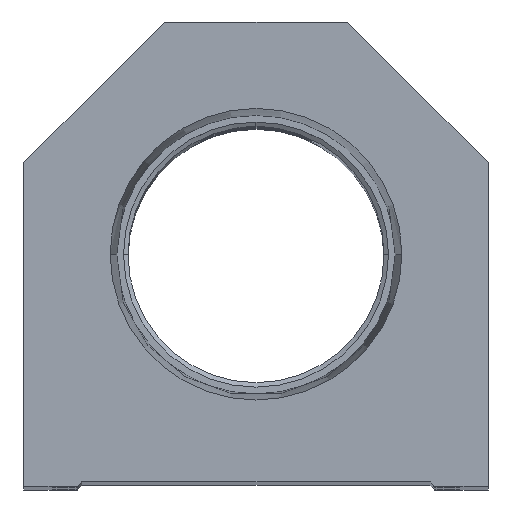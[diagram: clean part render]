
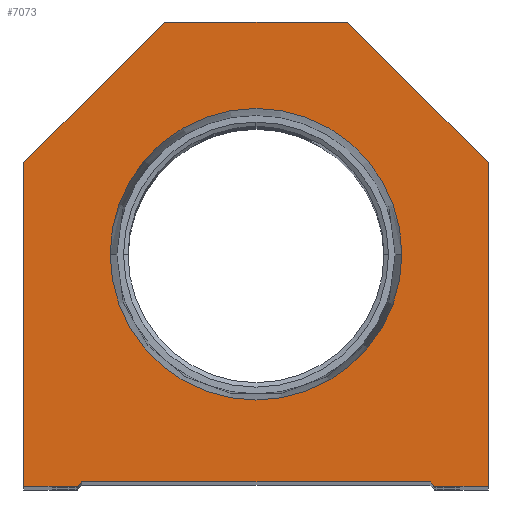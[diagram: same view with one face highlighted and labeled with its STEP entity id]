
A CAD part, top view. The second image highlights one B-rep face of the part: STEP entity #7073.
In plain terms, the highlighted planar face has unit normal (0, 0, 1).
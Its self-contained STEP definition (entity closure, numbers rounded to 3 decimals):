
#272 = DIRECTION ( 'NONE',  ( -1., 0., 0. ) ) ;
#381 = DIRECTION ( 'NONE',  ( 0.707, 0.707, 0. ) ) ;
#494 = DIRECTION ( 'NONE',  ( 0.707, -0.707, 0. ) ) ;
#551 = CARTESIAN_POINT ( 'NONE',  ( 19.05, 0., 0. ) ) ;
#645 = LINE ( 'NONE', #551, #13888 ) ;
#687 = CIRCLE ( 'NONE', #13352, 15.947 ) ;
#899 = VERTEX_POINT ( 'NONE', #9761 ) ;
#1022 = EDGE_CURVE ( 'NONE', #2037, #3148, #4108, .T. ) ;
#1048 = ORIENTED_EDGE ( 'NONE', *, *, #12472, .T. ) ;
#1087 = CARTESIAN_POINT ( 'NONE',  ( -25.4, 0., 0. ) ) ;
#1173 = VECTOR ( 'NONE', #494, 1000. ) ;
#1298 = ORIENTED_EDGE ( 'NONE', *, *, #9705, .T. ) ;
#1393 = CARTESIAN_POINT ( 'NONE',  ( -19.05, 0., 0. ) ) ;
#1475 = FACE_BOUND ( 'NONE', #8151, .T. ) ;
#1544 = DIRECTION ( 'NONE',  ( -0.707, 0.707, 0. ) ) ;
#1827 = CARTESIAN_POINT ( 'NONE',  ( 9.775, 9.775, 0. ) ) ;
#2037 = VERTEX_POINT ( 'NONE', #8344 ) ;
#2321 = CARTESIAN_POINT ( 'NONE',  ( 19.55, 0., 0. ) ) ;
#2626 = CARTESIAN_POINT ( 'NONE',  ( -19.05, 0.5, 0. ) ) ;
#2729 = EDGE_CURVE ( 'NONE', #6214, #3938, #7697, .T. ) ;
#2784 = CARTESIAN_POINT ( 'NONE',  ( 25.4, 35.4, 0. ) ) ;
#3148 = VERTEX_POINT ( 'NONE', #11606 ) ;
#3512 = EDGE_CURVE ( 'NONE', #899, #12322, #12867, .T. ) ;
#3933 = DIRECTION ( 'NONE',  ( 0., 0., 1. ) ) ;
#3938 = VERTEX_POINT ( 'NONE', #4778 ) ;
#4021 = EDGE_CURVE ( 'NONE', #6687, #7811, #687, .T. ) ;
#4060 = EDGE_CURVE ( 'NONE', #7811, #6687, #6038, .T. ) ;
#4108 = LINE ( 'NONE', #14190, #11794 ) ;
#4561 = VERTEX_POINT ( 'NONE', #9564 ) ;
#4679 = EDGE_LOOP ( 'NONE', ( #9966, #16146, #9012, #1048, #1298, #6498, #16130, #13596, #16250, #15469 ) ) ;
#4778 = CARTESIAN_POINT ( 'NONE',  ( 19.05, 0.5, 0. ) ) ;
#4903 = FACE_OUTER_BOUND ( 'NONE', #4679, .T. ) ;
#4905 = DIRECTION ( 'NONE',  ( 1., 0., 0. ) ) ;
#4959 = DIRECTION ( 'NONE',  ( 1., 0., 0. ) ) ;
#5077 = VERTEX_POINT ( 'NONE', #2321 ) ;
#5443 = CARTESIAN_POINT ( 'NONE',  ( -19.05, 0.5, 0. ) ) ;
#5668 = ORIENTED_EDGE ( 'NONE', *, *, #4060, .F. ) ;
#6038 = CIRCLE ( 'NONE', #16280, 15.947 ) ;
#6214 = VERTEX_POINT ( 'NONE', #5443 ) ;
#6398 = VERTEX_POINT ( 'NONE', #10011 ) ;
#6409 = DIRECTION ( 'NONE',  ( 1., 0., 0. ) ) ;
#6498 = ORIENTED_EDGE ( 'NONE', *, *, #7054, .T. ) ;
#6687 = VERTEX_POINT ( 'NONE', #6771 ) ;
#6739 = LINE ( 'NONE', #11919, #8133 ) ;
#6771 = CARTESIAN_POINT ( 'NONE',  ( -15.947, 25.4, 0. ) ) ;
#7054 = EDGE_CURVE ( 'NONE', #11685, #4561, #13022, .T. ) ;
#7059 = VECTOR ( 'NONE', #1544, 1000. ) ;
#7073 = ADVANCED_FACE ( 'NONE', ( #1475, #4903 ), #16629, .T. ) ;
#7611 = CARTESIAN_POINT ( 'NONE',  ( 25.4, 0., 0. ) ) ;
#7697 = LINE ( 'NONE', #2626, #11364 ) ;
#7811 = VERTEX_POINT ( 'NONE', #16206 ) ;
#7874 = CARTESIAN_POINT ( 'NONE',  ( 25.4, 0., 0. ) ) ;
#8133 = VECTOR ( 'NONE', #381, 1000. ) ;
#8151 = EDGE_LOOP ( 'NONE', ( #5668, #8269 ) ) ;
#8161 = LINE ( 'NONE', #1827, #1173 ) ;
#8269 = ORIENTED_EDGE ( 'NONE', *, *, #4021, .F. ) ;
#8326 = LINE ( 'NONE', #2784, #7059 ) ;
#8344 = CARTESIAN_POINT ( 'NONE',  ( 10., 50.8, 0. ) ) ;
#8405 = EDGE_CURVE ( 'NONE', #6398, #899, #9865, .T. ) ;
#9012 = ORIENTED_EDGE ( 'NONE', *, *, #2729, .T. ) ;
#9060 = DIRECTION ( 'NONE',  ( 0., 0., 1. ) ) ;
#9110 = EDGE_CURVE ( 'NONE', #3148, #6398, #9690, .T. ) ;
#9506 = VECTOR ( 'NONE', #10410, 1000. ) ;
#9564 = CARTESIAN_POINT ( 'NONE',  ( 25.4, 35.4, 0. ) ) ;
#9690 = LINE ( 'NONE', #16162, #10354 ) ;
#9705 = EDGE_CURVE ( 'NONE', #5077, #11685, #645, .T. ) ;
#9761 = CARTESIAN_POINT ( 'NONE',  ( -25.4, 0., 0. ) ) ;
#9865 = LINE ( 'NONE', #1087, #12762 ) ;
#9966 = ORIENTED_EDGE ( 'NONE', *, *, #3512, .T. ) ;
#10011 = CARTESIAN_POINT ( 'NONE',  ( -25.4, 35.4, 0. ) ) ;
#10263 = CARTESIAN_POINT ( 'NONE',  ( -19.55, 0., 0. ) ) ;
#10354 = VECTOR ( 'NONE', #14827, 1000. ) ;
#10410 = DIRECTION ( 'NONE',  ( 1., 0., 0. ) ) ;
#11082 = VECTOR ( 'NONE', #14023, 1000. ) ;
#11364 = VECTOR ( 'NONE', #4905, 1000. ) ;
#11546 = CARTESIAN_POINT ( 'NONE',  ( 0., 25.4, 0. ) ) ;
#11606 = CARTESIAN_POINT ( 'NONE',  ( -10., 50.8, 0. ) ) ;
#11685 = VERTEX_POINT ( 'NONE', #7874 ) ;
#11794 = VECTOR ( 'NONE', #272, 1000. ) ;
#11919 = CARTESIAN_POINT ( 'NONE',  ( -9.775, 9.775, 0. ) ) ;
#11935 = EDGE_CURVE ( 'NONE', #12322, #6214, #6739, .T. ) ;
#12322 = VERTEX_POINT ( 'NONE', #10263 ) ;
#12472 = EDGE_CURVE ( 'NONE', #3938, #5077, #8161, .T. ) ;
#12762 = VECTOR ( 'NONE', #13837, 1000. ) ;
#12772 = CARTESIAN_POINT ( 'NONE',  ( 0., 0., 0. ) ) ;
#12867 = LINE ( 'NONE', #1393, #9506 ) ;
#13022 = LINE ( 'NONE', #7611, #11082 ) ;
#13131 = DIRECTION ( 'NONE',  ( 1., 0., 0. ) ) ;
#13352 = AXIS2_PLACEMENT_3D ( 'NONE', #11546, #3933, #4959 ) ;
#13596 = ORIENTED_EDGE ( 'NONE', *, *, #1022, .T. ) ;
#13837 = DIRECTION ( 'NONE',  ( 0., -1., 0. ) ) ;
#13888 = VECTOR ( 'NONE', #13131, 1000. ) ;
#14003 = DIRECTION ( 'NONE',  ( 0., 0., 1. ) ) ;
#14023 = DIRECTION ( 'NONE',  ( 0., 1., 0. ) ) ;
#14190 = CARTESIAN_POINT ( 'NONE',  ( 10., 50.8, 0. ) ) ;
#14827 = DIRECTION ( 'NONE',  ( -0.707, -0.707, 0. ) ) ;
#15273 = CARTESIAN_POINT ( 'NONE',  ( 0., 25.4, 0. ) ) ;
#15469 = ORIENTED_EDGE ( 'NONE', *, *, #8405, .T. ) ;
#15906 = AXIS2_PLACEMENT_3D ( 'NONE', #12772, #9060, #6409 ) ;
#16130 = ORIENTED_EDGE ( 'NONE', *, *, #16633, .T. ) ;
#16146 = ORIENTED_EDGE ( 'NONE', *, *, #11935, .T. ) ;
#16162 = CARTESIAN_POINT ( 'NONE',  ( -25.4, 35.4, 0. ) ) ;
#16206 = CARTESIAN_POINT ( 'NONE',  ( 15.947, 25.4, 0. ) ) ;
#16250 = ORIENTED_EDGE ( 'NONE', *, *, #9110, .T. ) ;
#16280 = AXIS2_PLACEMENT_3D ( 'NONE', #15273, #14003, #16532 ) ;
#16532 = DIRECTION ( 'NONE',  ( 1., 0., 0. ) ) ;
#16629 = PLANE ( 'NONE',  #15906 ) ;
#16633 = EDGE_CURVE ( 'NONE', #4561, #2037, #8326, .T. ) ;
